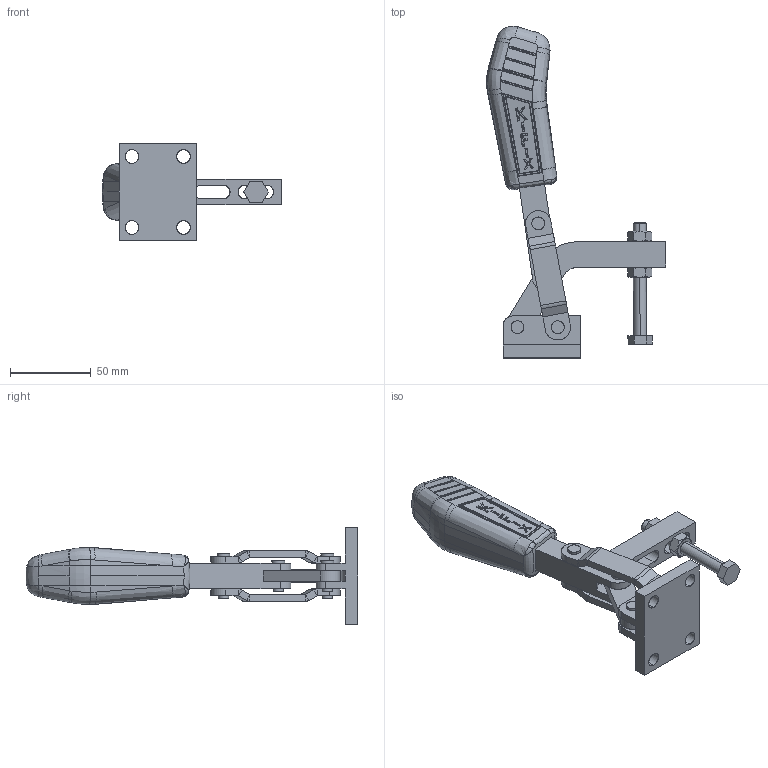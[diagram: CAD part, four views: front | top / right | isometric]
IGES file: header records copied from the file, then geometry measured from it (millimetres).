
Start section: SolidWorks IGES file using analytic representation for surfaces
Global section: file name: C:\Projetos\Grampos\KF-JD\KF-03 JD\KF-03 JD.IGS; native system: SolidWorks 2014; preprocessor: SolidWorks 2014; author: Ricardo; date: 150716.164127; units: millimetre
Bounding box: 111.19 x 205.93 x 60 mm (x, y, z)
Surface area: 59613.8 mm2 (no closed solid volume)
Topology: 0 solids, 0 shells, 753 faces, 8902 edges, 8872 vertices
Faces by surface type: bspline 514, revolution 239
